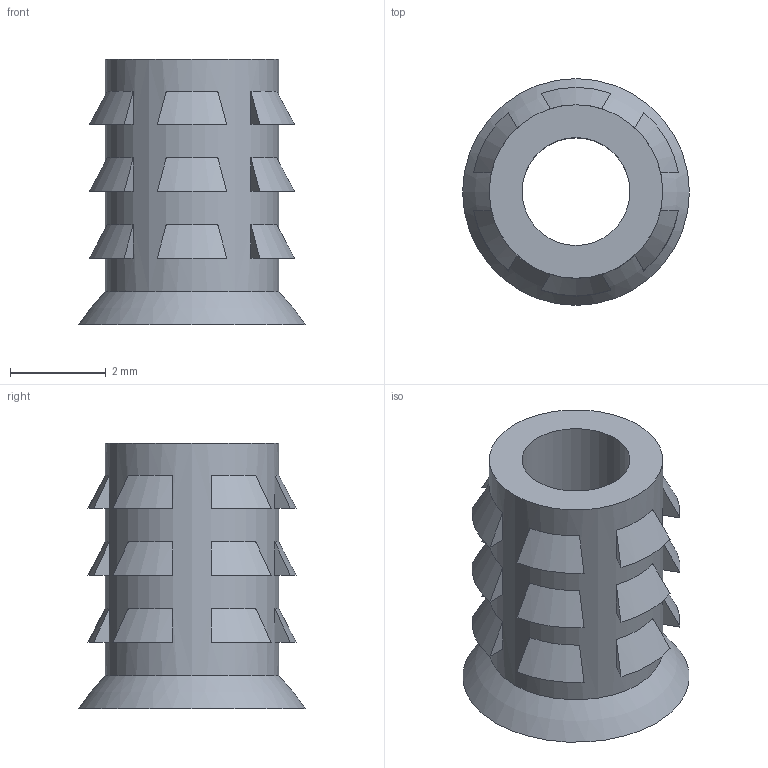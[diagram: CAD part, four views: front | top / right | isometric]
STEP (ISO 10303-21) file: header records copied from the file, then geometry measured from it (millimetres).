
FILE_DESCRIPTION (( 'STEP AP214' ), '1' );
FILE_NAME ('insert 4-40.STEP', '2017-08-09T08:34:36', ( '微软用户' ), ( '微软中国' ), 'SwSTEP 2.0', 'SolidWorks 2015', '' );
FILE_SCHEMA (( 'AUTOMOTIVE_DESIGN' ));
Length unit declared in the file: millimetre
Products named in the file (1): insert 4-40
Bounding box: 4.75 x 4.75 x 5.56 mm (x, y, z)
Volume: 40.2 mm3; surface area: 143.7 mm2
Topology: 1 solids, 1 shells, 78 faces, 172 edges, 114 vertices
Faces by surface type: plane 56, torus 19, cylinder 2, cone 1
Full cylindrical faces by diameter (mm): 2.261 x1, 3.632 x1
Entity records: 3096 total; most frequent: CARTESIAN_POINT 493, DIRECTION 350, ORIENTED_EDGE 336, EDGE_CURVE 168, AXIS2_PLACEMENT_3D 139, VERTEX_POINT 114, EDGE_LOOP 102, UNCERTAINTY_MEASURE_WITH_UNIT 81
